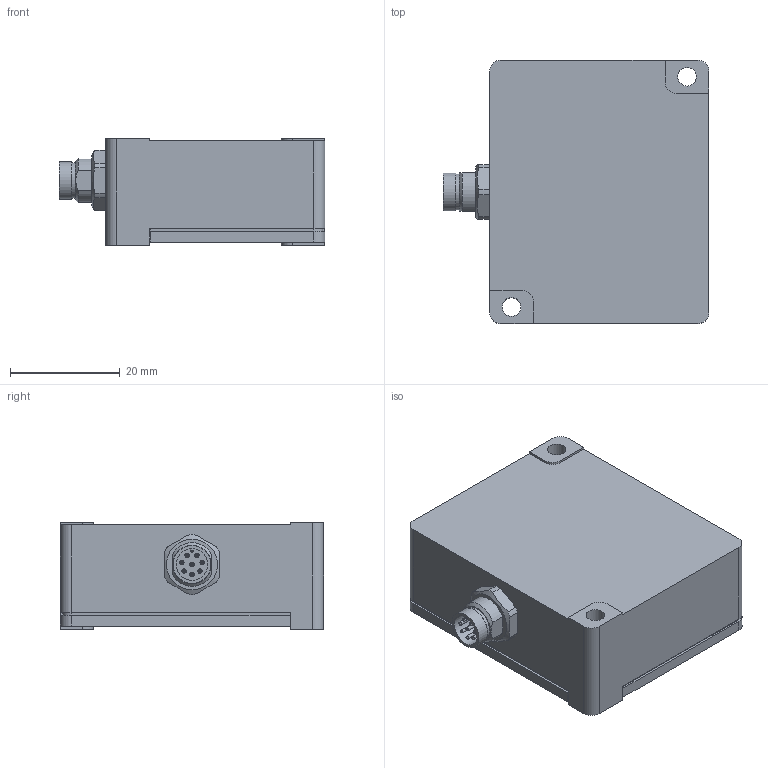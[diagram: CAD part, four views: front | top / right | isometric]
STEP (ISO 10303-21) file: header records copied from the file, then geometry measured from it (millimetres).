
FILE_DESCRIPTION((''),'2;1');
FILE_NAME('Z:\udvikling\Inventor Tegninger\Produktions Tegninger\8500 COMPACT-LINE\Step Filer til hjemmesiden\DSE\Compact-Line DSE.stp','2017-03-24T01:55:55',('Peter'),(''),'Autodesk Inventor 2008','Autodesk Inventor 2008','');
FILE_SCHEMA(('AUTOMOTIVE_DESIGN { 1 0 10303 214 1 1 1 1 }'));
Length unit declared in the file: millimetre
Products named in the file (7): Assembly Compact-Line DSE; 8507_02 MiniSensor_Gasked; 8501_04 MiniSensor_Lid; 8504_06 MiniSensor_House_8POL; 42-01163_M8_8pol_solder; Mini_FrontGlass; LABEL Compact_Line
Assembly tree (6 placements, depth 2):
  Assembly Compact-Line DSE
    8507_02 MiniSensor_Gasked
    8501_04 MiniSensor_Lid
    8504_06 MiniSensor_House_8POL
    42-01163_M8_8pol_solder
    Mini_FrontGlass
    LABEL Compact_Line
Bounding box: 48.5 x 48 x 19.5 mm (x, y, z)
Volume: 14256.4 mm3; surface area: 21359.1 mm2
Topology: 6 solids, 6 shells, 286 faces, 735 edges, 485 vertices
Faces by surface type: plane 113, cylinder 98, bspline 46, cone 28, torus 1
Full cylindrical faces by diameter (mm): 0.6 x16, 0.8 x8, 1 x8, 5.8 x1, 6 x1, 6.5 x1, 6.9 x1, 7.5 x1, 9.6 x1
Entity records: 9250 total; most frequent: CARTESIAN_POINT 2512, DIRECTION 1346, ORIENTED_EDGE 1160, EDGE_CURVE 580, AXIS2_PLACEMENT_3D 534, EDGE_LOOP 453, VERTEX_POINT 431, FACE_OUTER_BOUND 286
